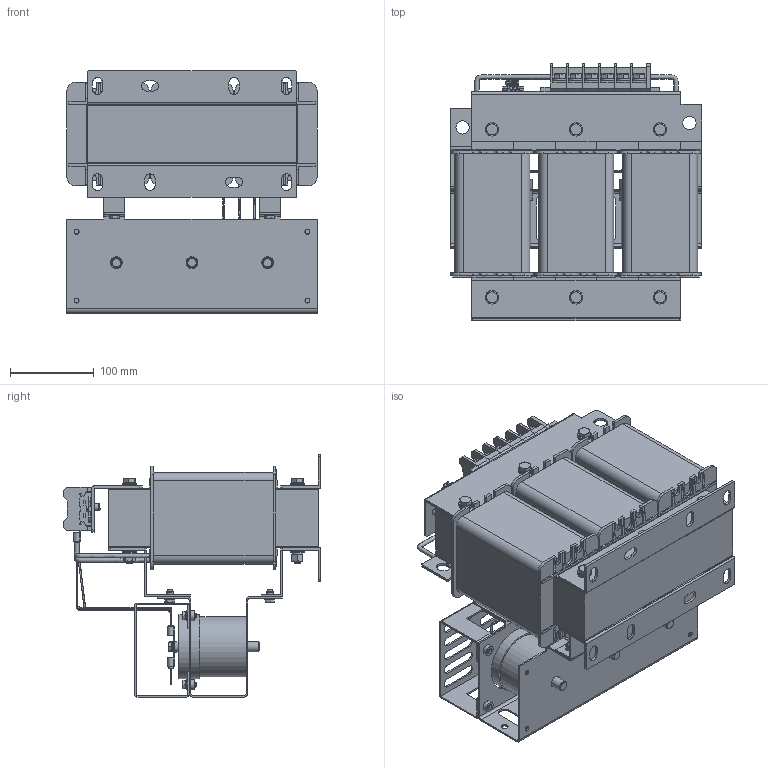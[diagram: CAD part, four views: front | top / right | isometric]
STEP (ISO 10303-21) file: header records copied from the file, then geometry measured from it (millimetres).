
FILE_DESCRIPTION(('STEP AP203'), '1');
FILE_NAME('蔓躅漤铋 耔眢耥 翳朦蝠 _ ISINOF-22_28-6', '', ('UNSPECIFIED'), ('UNSPECIFIED'), 'C3D Converter', 'C3D Toolkit', '');
FILE_SCHEMA(('CONFIG_CONTROL_DESIGN'));
Length unit declared in the file: millimetre
Products named in the file (44): ISINOF-22/28-6; DW16-06-02跚X2\041B04270423\X0\; LРНЦ吭X2\04560415\X0\1; RNB14-6S; 吒X2\0425\X0\72-80; 琵X2\0428\X0\崤X2\043A\X0\; 琵X2\04370418042D0458042C\X0\ ; ёЗЧУ; №ЗјЬG50X70X150; ї琵X2\041E\X0\做зЧУKV223-2P; А降еМх50-250-1; БщЅЗВЭЛЁM8; ИэПаМъРѕ250-250-80ЈЁ50-100; ЙПјРјю НЁУГ 50-100; ЙПјРјю50-100\X2\040Ô0448\X0\¶ЛЧУЦ§іЕ; МщЦЅ; ПВјРјю НЁУГ50-100; ПЯИ¦28A; plain washers--product grade c gb_GB_FASTENER_WASHER_SMWC 8; spring lock washers--normal type gb_GB_FASTENER_WASHER_SW 8; hexagon nuts grade c gb_GB_FASTENER_NUT_SNC1 M8-N; LРНЦ吭X2\04560415\X0\; plain washers--product grade c gb_GB_FASTENER_WASHER_SMWC 6; hex head bolts-full thread grade c gb_GB_FASTENER_BOLT_HHBFTC M6X12-N; Cable_1-gb_assembly-037; 琵X2\043704100412\X0\^Cable_1-gb_assembly-037; Cable_2-gb_assembly-029; 琵X2\043704100412\X0\^Cable_2-gb_assembly-029; Cable_3-gb_assembly-022; 琵X2\043704100412\X0\^Cable_3-gb_assembly-022; Cable_4-ХэПТІЁВЛІЁ琵X2\04370457211604160447\X0\SKS-SF-0024-6AЈЇ05; 琵X2\043704100412\X0\^Cable_4-ХэПТІЁВЛІЁ琵X2\04370457211604160447\X0\SKS-SF-0024-6AЈЇ05; Cable_5-ХэПТІЁВЛІЁ琵X2\04370457211604160447\X0\SKS-SF-0024-6AЈЇ05; 琵X2\043704100412\X0\^Cable_5-ХэПТІЁВЛІЁ琵X2\04370457211604160447\X0\SKS-SF-0024-6AЈЇ05; Cable_6-ХэПТІЁВЛІЁ琵X2\04370457211604160447\X0\SKS-SF-0024-6AЈЇ05; 琵X2\043704100412\X0\^Cable_6-ХэПТІЁВЛІЁ琵X2\04370457211604160447\X0\SKS-SF-0024-6AЈЇ05; Harness_6-ХэПТІЁВЛІЁ琵X2\04370457211604160447\X0\SKS-SF-0024-6AЈЇ05; 琵X2\043704100412\X0\^Harness_6-ХэПТІЁВЛІЁ琵X2\04370457211604160447\X0\SKS-SF-0024-6AЈЇ05; Cable_7-ХэПТІЁВЛІЁ琵X2\04370457211604160447\X0\SKS-SF-0024-6AЈЇ05; 琵X2\043704100412\X0\^Cable_7-ХэПТІЁВЛІЁ琵X2\04370457211604160447\X0\SKS-SF-0024-6AЈЇ05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
Assembly tree (132 placements, depth 3):
  ISINOF-22/28-6
    DW16-06-02跚X2\041B04270423\X0\
    LРНЦ吭X2\04560415\X0\1  x2
    RNB14-6S  x12
    吒X2\0425\X0\72-80  x3
    琵X2\0428\X0\崤X2\043A\X0\
    琵X2\04370418042D0458042C\X0\ 
    ёЗЧУ
    №ЗјЬG50X70X150  x3
    ї琵X2\041E\X0\做зЧУKV223-2P
    А降еМх50-250-1  x6
    БщЅЗВЭЛЁM8  x6
    ИэПаМъРѕ250-250-80ЈЁ50-100
    ЙПјРјю НЁУГ 50-100
    ЙПјРјю50-100\X2\040Ô0448\X0\¶ЛЧУЦ§іЕ
    МщЦЅ
    ПВјРјю НЁУГ50-100  x2
    ПЯИ¦28A  x3
    plain washers--product grade c gb_GB_FASTENER_WASHER_SMWC 8  x24
    spring lock washers--normal type gb_GB_FASTENER_WASHER_SW 8  x6
    hexagon nuts grade c gb_GB_FASTENER_NUT_SNC1 M8-N  x6
    LРНЦ吭X2\04560415\X0\  x2
    plain washers--product grade c gb_GB_FASTENER_WASHER_SMWC 6  x14
    hex head bolts-full thread grade c gb_GB_FASTENER_BOLT_HHBFTC M6X12-N  x14
    Cable_1-gb_assembly-037
      琵X2\043704100412\X0\^Cable_1-gb_assembly-037
    Cable_2-gb_assembly-029
      琵X2\043704100412\X0\^Cable_2-gb_assembly-029
    Cable_3-gb_assembly-022
      琵X2\043704100412\X0\^Cable_3-gb_assembly-022
    Cable_4-ХэПТІЁВЛІЁ琵X2\04370457211604160447\X0\SKS-SF-0024-6AЈЇ05
      琵X2\043704100412\X0\^Cable_4-ХэПТІЁВЛІЁ琵X2\04370457211604160447\X0\SKS-SF-0024-6AЈЇ05
    Cable_5-ХэПТІЁВЛІЁ琵X2\04370457211604160447\X0\SKS-SF-0024-6AЈЇ05
      琵X2\043704100412\X0\^Cable_5-ХэПТІЁВЛІЁ琵X2\04370457211604160447\X0\SKS-SF-0024-6AЈЇ05
    Cable_6-ХэПТІЁВЛІЁ琵X2\04370457211604160447\X0\SKS-SF-0024-6AЈЇ05
      琵X2\043704100412\X0\^Cable_6-ХэПТІЁВЛІЁ琵X2\04370457211604160447\X0\SKS-SF-0024-6AЈЇ05
    Harness_6-ХэПТІЁВЛІЁ琵X2\04370457211604160447\X0\SKS-SF-0024-6AЈЇ05
      琵X2\043704100412\X0\^Harness_6-ХэПТІЁВЛІЁ琵X2\04370457211604160447\X0\SKS-SF-0024-6AЈЇ05
    Cable_7-ХэПТІЁВЛІЁ琵X2\04370457211604160447\X0\SKS-SF-0024-6AЈЇ05
      琵X2\043704100412\X0\^Cable_7-ХэПТІЁВЛІЁ琵X2\04370457211604160447\X0\SKS-SF-0024-6AЈЇ05
    Cable_8-ХэПТІЁВЛІЁ琵X2\04370457211604160447\X0\SKS-SF-0024-6AЈЇ05
      琵X2\043704100412\X0\^Cable_8-ХэПТІЁВЛІЁ琵X2\04370457211604160447\X0\SKS-SF-0024-6AЈЇ05
    Cable_9-ХэПТІЁВЛІЁ琵X2\04370457211604160447\X0\SKS-SF-0024-6AЈЇ05
      琵X2\043704100412\X0\^Cable_9-ХэПТІЁВЛІЁ琵X2\04370457211604160447\X0\SKS-SF-0024-6AЈЇ05
Bounding box: 300 x 307 x 288.5 mm (x, y, z)
Volume: 7632507.7 mm3; surface area: 1717165.1 mm2
Topology: 188 solids, 188 shells, 3081 faces, 7513 edges, 4931 vertices
Faces by surface type: plane 2129, cylinder 696, cone 209, bspline 41, torus 6
Full cylindrical faces by diameter (mm): 3 x2, 3.8 x2, 4 x4, 5 x18, 6 x36, 6.2 x12, 6.4 x12, 6.6 x14, 6.647 x6, 8 x13, 8.68 x6, 9 x24, 10.7 x1, 11 x29, 12 x21, 12.5 x6, 12.88 x6, 14 x3, 16 x38, 18.2 x1, 19 x1, 20 x1, 72 x6, 76 x3, 80 x3
Entity records: 85858 total; most frequent: CARTESIAN_POINT 24462, ORIENTED_EDGE 8650, DIRECTION 8605, EDGE_CURVE 4325, LINE 3325, VECTOR 3325, VERTEX_POINT 2958, AXIS2_PLACEMENT_3D 2640
